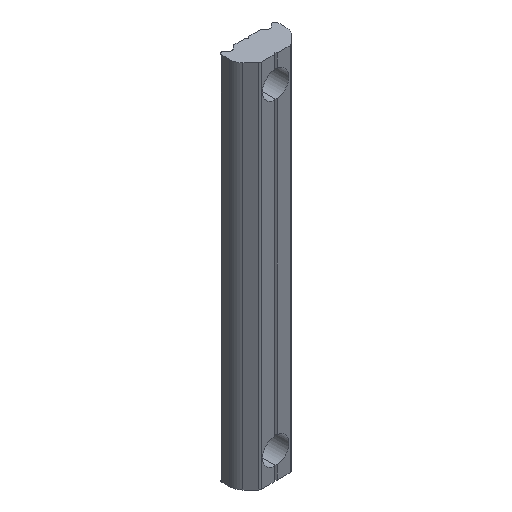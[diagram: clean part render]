
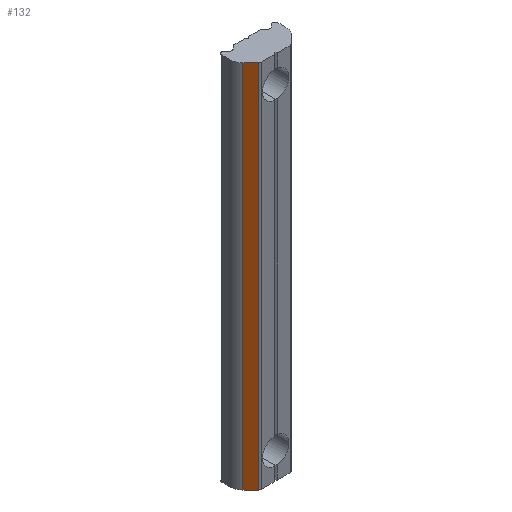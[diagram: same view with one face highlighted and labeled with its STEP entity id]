
A CAD part, isometric view. The second image highlights one B-rep face of the part: STEP entity #132.
In plain terms, the highlighted planar face has unit normal (-0.707, -0.707, 0).
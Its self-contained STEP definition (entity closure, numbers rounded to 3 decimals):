
#20 = VECTOR ( 'NONE', #373, 1000. ) ;
#21 = ORIENTED_EDGE ( 'NONE', *, *, #1244, .T. ) ;
#31 = DIRECTION ( 'NONE',  ( 0.707, -0.707, 0. ) ) ;
#98 = EDGE_LOOP ( 'NONE', ( #21, #1483, #1532, #1116 ) ) ;
#132 = ADVANCED_FACE ( 'NONE', ( #641 ), #943, .T. ) ;
#196 = LINE ( 'NONE', #1519, #20 ) ;
#252 = DIRECTION ( 'NONE',  ( -0.707, 0.707, 0. ) ) ;
#314 = DIRECTION ( 'NONE',  ( 0., 0., 1. ) ) ;
#373 = DIRECTION ( 'NONE',  ( 0., 0., -1. ) ) ;
#414 = EDGE_CURVE ( 'NONE', #1759, #1452, #196, .T. ) ;
#420 = VECTOR ( 'NONE', #314, 1000. ) ;
#465 = EDGE_CURVE ( 'NONE', #475, #1036, #552, .T. ) ;
#475 = VERTEX_POINT ( 'NONE', #1213 ) ;
#552 = LINE ( 'NONE', #1665, #420 ) ;
#584 = CARTESIAN_POINT ( 'NONE',  ( -2.936, 0., 35. ) ) ;
#641 = FACE_OUTER_BOUND ( 'NONE', #98, .T. ) ;
#666 = VECTOR ( 'NONE', #1541, 1000. ) ;
#942 = CARTESIAN_POINT ( 'NONE',  ( -2.936, 0., -35. ) ) ;
#943 = PLANE ( 'NONE',  #1335 ) ;
#1036 = VERTEX_POINT ( 'NONE', #1792 ) ;
#1078 = LINE ( 'NONE', #942, #666 ) ;
#1116 = ORIENTED_EDGE ( 'NONE', *, *, #465, .T. ) ;
#1168 = LINE ( 'NONE', #584, #1887 ) ;
#1213 = CARTESIAN_POINT ( 'NONE',  ( -3.082, 0.146, -35. ) ) ;
#1244 = EDGE_CURVE ( 'NONE', #1036, #1759, #1168, .T. ) ;
#1296 = EDGE_CURVE ( 'NONE', #475, #1452, #1078, .T. ) ;
#1335 = AXIS2_PLACEMENT_3D ( 'NONE', #1650, #1578, #31 ) ;
#1452 = VERTEX_POINT ( 'NONE', #1683 ) ;
#1483 = ORIENTED_EDGE ( 'NONE', *, *, #414, .T. ) ;
#1519 = CARTESIAN_POINT ( 'NONE',  ( -4.568, 1.632, 35. ) ) ;
#1532 = ORIENTED_EDGE ( 'NONE', *, *, #1296, .F. ) ;
#1541 = DIRECTION ( 'NONE',  ( -0.707, 0.707, 0. ) ) ;
#1578 = DIRECTION ( 'NONE',  ( -0.707, -0.707, 0. ) ) ;
#1650 = CARTESIAN_POINT ( 'NONE',  ( -2.936, 0., 35. ) ) ;
#1665 = CARTESIAN_POINT ( 'NONE',  ( -3.082, 0.146, 35. ) ) ;
#1683 = CARTESIAN_POINT ( 'NONE',  ( -4.568, 1.632, -35. ) ) ;
#1746 = CARTESIAN_POINT ( 'NONE',  ( -4.568, 1.632, 35. ) ) ;
#1759 = VERTEX_POINT ( 'NONE', #1746 ) ;
#1792 = CARTESIAN_POINT ( 'NONE',  ( -3.082, 0.146, 35. ) ) ;
#1887 = VECTOR ( 'NONE', #252, 1000. ) ;
